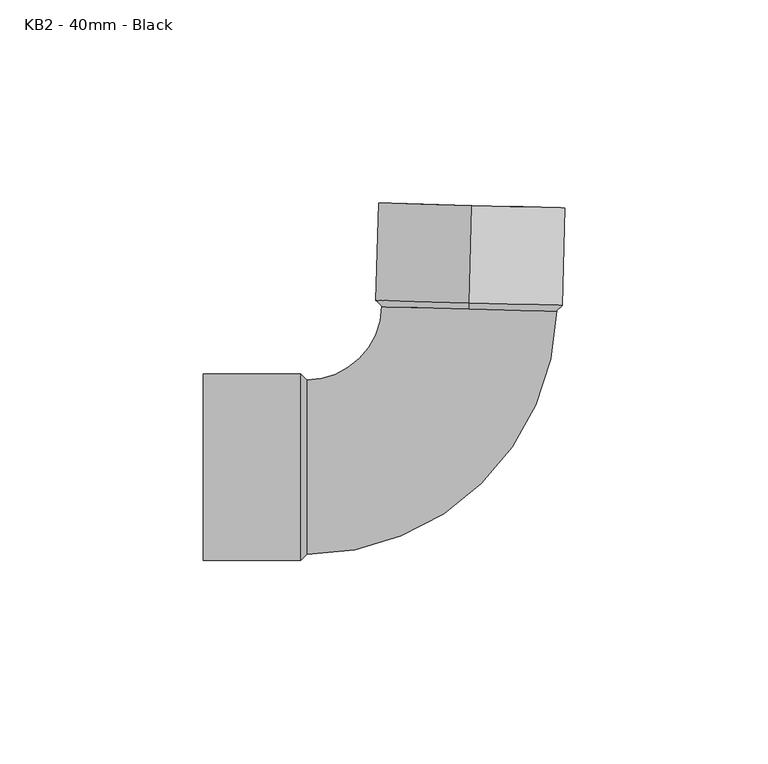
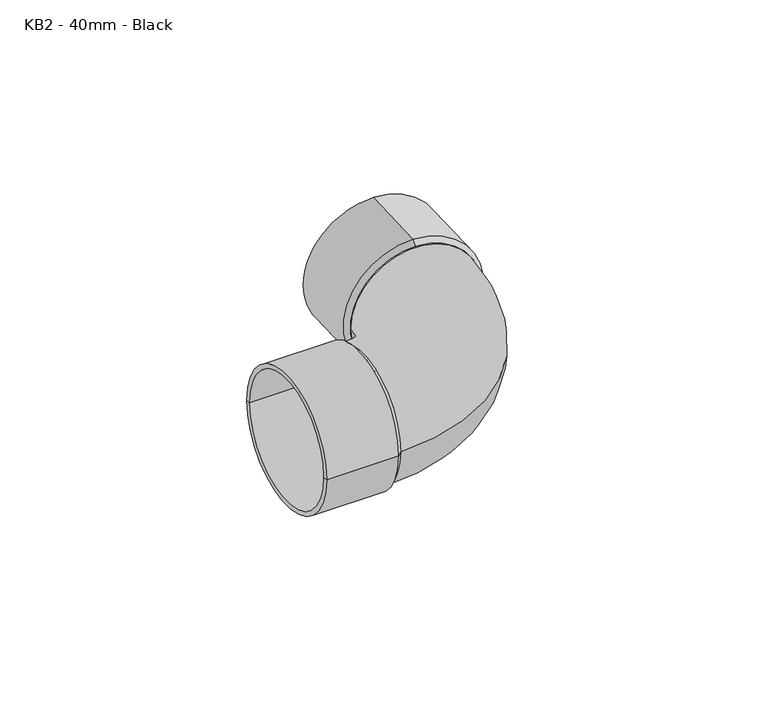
"""IFC4 building model written with IfcOpenShell, lengths in millimetres: pipe fitting geometry, MarleyPlumbingAndDrainage_PipeFitting_Bend88.5 : KB2 - 40mm - Black."""

from ifc_helpers import new_model, si_unit, point, frame, origin, place, context, project, spatial, polyline, circle_curve, ellipse_curve, trimmed, source, transform, mapped, element, save
from ifc_brep_helpers import plane_surface, cylinder_surface, revolved_surface, advanced_brep


def kb2_40mm_black_d1c11dab(model_context):
    return source(origin(), model_context, "Body", "AdvancedBrep", [
        advanced_brep(
        [(-13.0792577, 64.4441839, -21.5), (-13.0792577, 64.4441839, 21.5), (-13.0792577, 64.4441839, 23.0), (-13.0792577, 64.4441839, -23.0), (-13.7075045, 40.4524081, -21.5), (-13.7075045, 40.4524081, 21.5), (-13.7075045, 40.4524081, 0.0), (-13.7467699, 38.9529221, -21.5), (-13.7467699, 38.9529221, 21.5), (-13.7467699, 38.9529221, 0.0), (-13.7075045, 40.4524081, -23.0), (-13.7075045, 40.4524081, 23.0)],
        [
            (0, 1, circle_curve(frame((-13.0792577, 64.4441839, 0.0), z_axis=(-0.026176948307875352, -0.9996573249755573, 0.0), x_axis=(0.0, 0.0, 1.0)), 21.5)),
            (1, 2),
            (2, 3, circle_curve(frame((-13.0792577, 64.4441839, 0.0), z_axis=(0.026176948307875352, 0.9996573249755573, 0.0), x_axis=(0.0, 0.0, 1.0)), 23.0)),
            (3, 0),
            (1, 0, circle_curve(frame((-13.0792577, 64.4441839, 0.0), z_axis=(-0.026176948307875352, -0.9996573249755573, 0.0), x_axis=(0.0, 0.0, 1.0)), 21.5)),
            (3, 2, circle_curve(frame((-13.0792577, 64.4441839, 0.0), z_axis=(0.026176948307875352, 0.9996573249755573, 0.0), x_axis=(0.0, 0.0, 1.0)), 23.0)),
            (4, 5, circle_curve(frame((-13.7075045, 40.4524081, 0.0), z_axis=(-0.026176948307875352, -0.9996573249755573, 0.0), x_axis=(0.0, 0.0, 1.0)), 21.5)),
            (5, 1),
            (0, 4),
            (5, 4, circle_curve(frame((-13.7075045, 40.4524081, 0.0), z_axis=(-0.026176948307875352, -0.9996573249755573, 0.0), x_axis=(0.0, 0.0, 1.0)), 21.5)),
            (6, 5),
            (4, 6),
            (7, 8, circle_curve(frame((-13.7467699, 38.9529221, 0.0), z_axis=(-0.026176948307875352, -0.9996573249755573, 0.0), x_axis=(0.0, 0.0, 1.0)), 21.5)),
            (8, 9),
            (9, 7),
            (8, 7, circle_curve(frame((-13.7467699, 38.9529221, 0.0), z_axis=(-0.026176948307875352, -0.9996573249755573, 0.0), x_axis=(0.0, 0.0, 1.0)), 21.5)),
            (10, 11, circle_curve(frame((-13.7075045, 40.4524081, 0.0), z_axis=(-0.026176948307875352, -0.9996573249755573, 0.0), x_axis=(0.0, 0.0, 1.0)), 23.0)),
            (11, 8),
            (7, 10),
            (11, 10, circle_curve(frame((-13.7075045, 40.4524081, 0.0), z_axis=(-0.026176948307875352, -0.9996573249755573, 0.0), x_axis=(0.0, 0.0, 1.0)), 23.0)),
            (2, 11),
            (10, 3),
        ],
        [
            plane_surface(frame((-13.0792577, 64.4441839, 0.0), z_axis=(0.026176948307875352, 0.9996573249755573, 0.0), x_axis=(0.0, 0.0, 1.0))),
            revolved_surface(polyline([(-13.079257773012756, 64.44418390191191, 21.5), (-13.707504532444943, 40.452408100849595, 21.5)]), (-12.0849777, 102.414208, 0.0), (0.026176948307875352, 0.9996573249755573, 0.0)),
            plane_surface(frame((-13.7075045, 40.4524081, 0.0), z_axis=(0.026176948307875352, 0.9996573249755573, 0.0), x_axis=(0.0, 0.0, 1.0))),
            plane_surface(frame((-13.7467699, 38.9529221, 0.0), z_axis=(-0.026176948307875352, -0.9996573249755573, 0.0), x_axis=(0.0, 0.0, 1.0))),
            revolved_surface(polyline([(-13.7467699, 38.9529221, 21.5), (-13.7075045, 40.4524081, 23.0)]), (-12.0849777, 102.414208, 0.0), (0.026176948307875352, 0.9996573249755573, 0.0)),
            cylinder_surface(frame((-12.0849777, 102.414208, 0.0), z_axis=(0.026176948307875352, 0.9996573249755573, 0.0), x_axis=(0.0, 0.0, 1.0)), 23.0),
        ],
        [
            (0, [[1, 2, 3, 4]]),
            (0, [[5, -4, 6, -2]]),
            (1, [[7, 8, -1, 9]]),
            (1, [[10, -9, -5, -8]]),
            (2, [[11, -7, 12]]),
            (2, [[-12, -10, -11]]),
            (3, [[13, 14, 15]]),
            (3, [[16, -15, -14]]),
            (4, [[17, 18, -13, 19]]),
            (4, [[20, -19, -16, -18]]),
            (5, [[-3, 21, -17, 22]]),
            (5, [[-6, -22, -20, -21]]),
        ],
    ),
        advanced_brep(
        [(-79.2330629, 21.5, 0.0), (-79.2330629, -21.5, 0.0), (-79.2330629, -23.0, 0.0), (-79.2330629, 23.0, 0.0), (-55.2330629, 21.5, 0.0), (-55.2330629, -21.5, 0.0), (-55.2330629, 0.0, 0.0), (-53.7330629, 21.5, 0.0), (-53.7330629, -21.5, 0.0), (-53.7330629, 0.0, 0.0), (-55.2330629, 23.0, 0.0), (-55.2330629, -23.0, 0.0)],
        [
            (0, 1, circle_curve(frame((-79.2330629, 0.0, 0.0), z_axis=(1.0, 0.0, 0.0), x_axis=(0.0, -1.0, 0.0)), 21.5)),
            (1, 2),
            (2, 3, circle_curve(frame((-79.2330629, 0.0, 0.0), z_axis=(-1.0, 0.0, 0.0), x_axis=(0.0, -1.0, 0.0)), 23.0)),
            (3, 0),
            (1, 0, circle_curve(frame((-79.2330629, 0.0, 0.0), z_axis=(1.0, 0.0, 0.0), x_axis=(0.0, -1.0, 0.0)), 21.5)),
            (3, 2, circle_curve(frame((-79.2330629, 0.0, 0.0), z_axis=(-1.0, 0.0, 0.0), x_axis=(0.0, -1.0, 0.0)), 23.0)),
            (4, 5, circle_curve(frame((-55.2330629, 0.0, 0.0), z_axis=(1.0, 0.0, 0.0), x_axis=(0.0, -1.0, 0.0)), 21.5)),
            (5, 1),
            (0, 4),
            (5, 4, circle_curve(frame((-55.2330629, 0.0, 0.0), z_axis=(1.0, 0.0, 0.0), x_axis=(0.0, -1.0, 0.0)), 21.5)),
            (6, 5),
            (4, 6),
            (7, 8, circle_curve(frame((-53.7330629, 0.0, 0.0), z_axis=(1.0, 0.0, 0.0), x_axis=(0.0, -1.0, 0.0)), 21.5)),
            (8, 9),
            (9, 7),
            (8, 7, circle_curve(frame((-53.7330629, 0.0, 0.0), z_axis=(1.0, 0.0, 0.0), x_axis=(0.0, -1.0, 0.0)), 21.5)),
            (10, 11, circle_curve(frame((-55.2330629, 0.0, 0.0), z_axis=(1.0, 0.0, 0.0), x_axis=(0.0, -1.0, 0.0)), 23.0)),
            (11, 8),
            (7, 10),
            (11, 10, circle_curve(frame((-55.2330629, 0.0, 0.0), z_axis=(1.0, 0.0, 0.0), x_axis=(0.0, -1.0, 0.0)), 23.0)),
            (2, 11),
            (10, 3),
        ],
        [
            plane_surface(frame((-79.2330629, 0.0, 0.0), z_axis=(-1.0, 0.0, 0.0), x_axis=(0.0, -1.0, 0.0))),
            revolved_surface(polyline([(-79.2330629, -21.5, 0.0), (-55.2330629, -21.5, 0.0)]), (-117.2161029, 0.0, 0.0), (-1.0, 0.0, 0.0)),
            plane_surface(frame((-55.2330629, 0.0, 0.0), z_axis=(-1.0, 0.0, 0.0), x_axis=(0.0, -1.0, 0.0))),
            plane_surface(frame((-53.7330629, 0.0, 0.0), z_axis=(1.0, 0.0, 0.0), x_axis=(0.0, -1.0, 0.0))),
            revolved_surface(polyline([(-53.7330629, -21.5, 0.0), (-55.2330629, -23.0, 0.0)]), (-117.2161029, 0.0, 0.0), (-1.0, 0.0, 0.0)),
            cylinder_surface(frame((-117.2161029, 0.0, 0.0), z_axis=(-1.0, 0.0, 0.0), x_axis=(0.0, -1.0, 0.0)), 23.0),
        ],
        [
            (0, [[1, 2, 3, 4]]),
            (0, [[5, -4, 6, -2]]),
            (1, [[7, 8, -1, 9]]),
            (1, [[10, -9, -5, -8]]),
            (2, [[11, -7, 12]]),
            (2, [[-12, -10, -11]]),
            (3, [[13, 14, 15]]),
            (3, [[16, -15, -14]]),
            (4, [[17, 18, -13, 19]]),
            (4, [[20, -19, -16, -18]]),
            (5, [[-3, 21, -17, 22]]),
            (5, [[-6, -22, -20, -21]]),
        ],
    ),
        advanced_brep(
        [(-53.7330629, -21.5, 0.0), (-53.7330629, 21.5, 0.0), (7.7458626, 38.3901177, 0.0), (-35.2394024, 39.5157265, 0.0)],
        [
            (0, 1, circle_curve(frame((-53.7330629, 0.0, 0.0), z_axis=(-1.0, 0.0, 0.0), x_axis=(0.0, 1.0, 0.0)), 21.5)),
            (1, 0, circle_curve(frame((-53.7330629, 0.0, 0.0), z_axis=(-1.0, 0.0, 0.0), x_axis=(0.0, 1.0, 0.0)), 21.5)),
            (2, 3, circle_curve(frame((-13.7467699, 38.9529221, 0.0), z_axis=(0.02617694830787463, 0.9996573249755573, 0.0), x_axis=(-0.9996573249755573, 0.02617694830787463, 0.0)), 21.5)),
            (3, 2, circle_curve(frame((-13.7467699, 38.9529221, 0.0), z_axis=(0.02617694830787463, 0.9996573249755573, 0.0), x_axis=(-0.9996573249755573, 0.02617694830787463, 0.0)), 21.5)),
            (3, 1, circle_curve(frame((-53.7330629, 40.0, 0.0), z_axis=(0.0, 0.0, -1.0), x_axis=(0.0, -1.0, 0.0)), 18.5)),
            (0, 2, circle_curve(frame((-53.7330629, 40.0, 0.0), z_axis=(0.0, 0.0, 1.0), x_axis=(0.0, -1.0, 0.0)), 61.5)),
        ],
        [
            plane_surface(frame((-53.7330629, 0.0, 0.0), z_axis=(-1.0, 0.0, 0.0), x_axis=(0.0, 0.0, 1.0))),
            plane_surface(frame((-13.7467699, 38.9529221, 0.0), z_axis=(0.02617694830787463, 0.9996573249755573, 0.0), x_axis=(0.0, 0.0, 1.0))),
            revolved_surface(trimmed(ellipse_curve(frame((-53.7330629, 0.0, 0.0), z_axis=(-1.0, 0.0, 0.0), x_axis=(0.0, 1.0, 0.0)), 21.5, 21.5), [point((-53.7330629, -21.5, 0.0))], [point((-53.7330629, 21.5, 0.0))], True, "CARTESIAN"), (-53.7330629, 40.0, 0.0), (0.0, 0.0, 1.0)),
            revolved_surface(trimmed(ellipse_curve(frame((-53.7330629, 0.0, 0.0), z_axis=(-1.0, 0.0, 0.0), x_axis=(0.0, 1.0, 0.0)), 21.5, 21.5), [point((-53.7330629, 21.5, 0.0))], [point((-53.7330629, -21.5, 0.0))], True, "CARTESIAN"), (-53.7330629, 40.0, 0.0), (0.0, 0.0, 1.0)),
        ],
        [
            (0, [[1, 2]]),
            (1, [[3, 4]]),
            (2, [[5, -1, 6, -4]]),
            (3, [[-6, -2, -5, -3]]),
        ],
    ),
    ])


if __name__ == "__main__":
    model = new_model("IFC4")
    model_context = context("Model", 3, world=origin())
    ifc_project = project(units=[si_unit("LENGTHUNIT", "METRE", prefix="MILLI")], contexts=[model_context])
    site = spatial("IfcSite", under=ifc_project)
    building = spatial("IfcBuilding", under=site)
    placement = place(None, origin())
    kb2_40mm_black_shape = kb2_40mm_black_d1c11dab(model_context)
    element("IfcPipeFitting", 1, ObjectType="MarleyPlumbingAndDrainage_PipeFitting_Bend88.5 : KB2 - 40mm - Black", at=placement, inside=building, context=model_context, shape_type="MappedRepresentation", body=[
        mapped(kb2_40mm_black_shape, transform((0.0, 0.0, 0.0), x_axis=(1.0, 0.0, 0.0), y_axis=(0.0, 1.0, 0.0), z_axis=(0.0, 0.0, 1.0))),
    ])
    save(model, "model.ifc")
